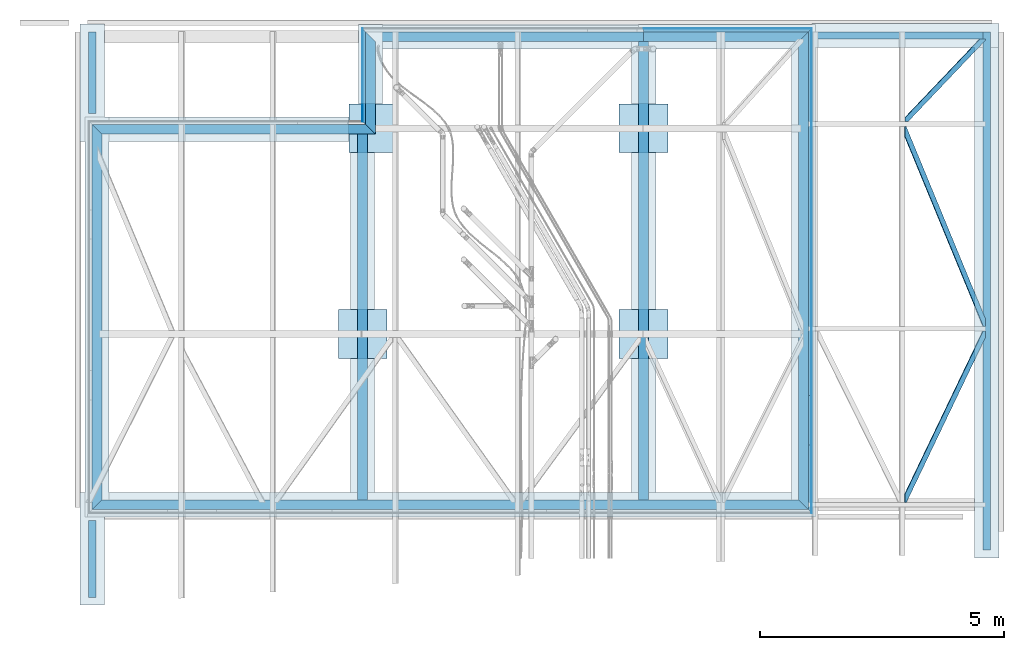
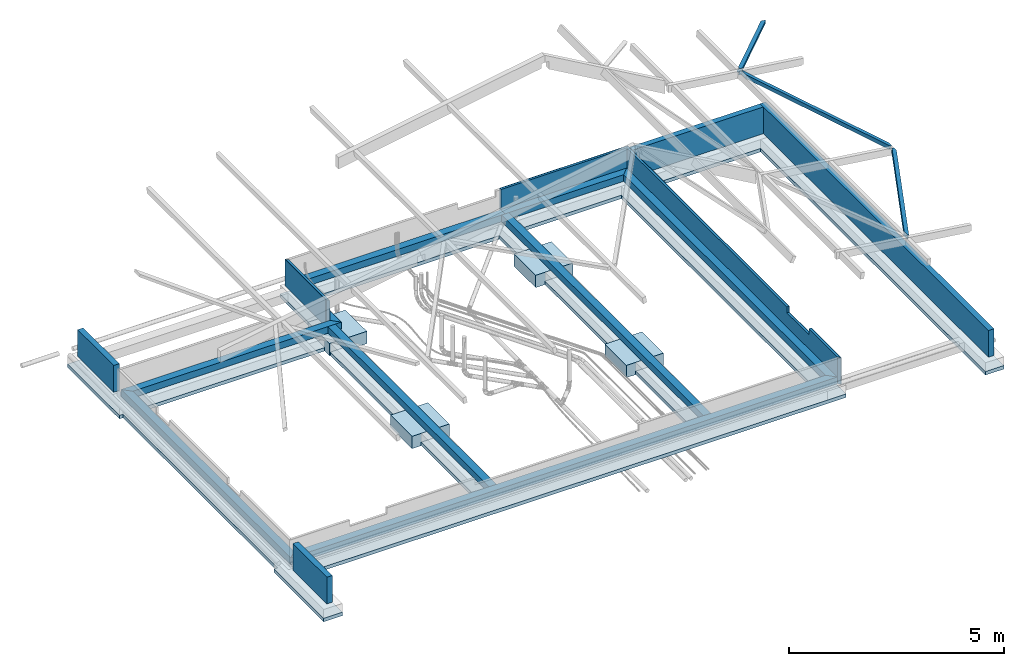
# One storey, part 3 of 18: 13 building element parts, 6 walls, 5 slabs, 2 beams, 1 member, 7 elements without a shape of their own.
"""IFC4 building model written with IfcOpenShell, lengths in centimetres."""

from ifc_helpers import new_model, entity, si_unit, converted_unit, derived_unit, direction, frame, origin, place, context, subcontext, project, spatial, indexed_curve, outline, extrude, polygons, source, transform, mapped, material, type_object, type_shapes, element, aggregate, save


model = new_model("IFC4")

# Units and contexts
model_context = context("Model", 3, precision=0.001, world=origin(), true_north=direction((6.123233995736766e-17, 1.0)))
body_context = subcontext(model_context, "Body", "Model", "MODEL_VIEW")
ifc_project = project(units=[si_unit("LENGTHUNIT", "METRE", prefix="CENTI"), si_unit("AREAUNIT", "SQUARE_METRE"), converted_unit("PLANEANGLEUNIT", "DEGREE", entity("IfcPlaneAngleMeasure", 0.017453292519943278), si_unit("PLANEANGLEUNIT", "RADIAN"), dimensions=[0, 0, 0, 0, 0, 0, 0]), si_unit("VOLUMEUNIT", "CUBIC_METRE"), derived_unit("THERMALTRANSMITTANCEUNIT", [(si_unit("MASSUNIT", "GRAM", prefix="KILO"), 1), (si_unit("THERMODYNAMICTEMPERATUREUNIT", "KELVIN"), -1), (si_unit("TIMEUNIT", "SECOND"), -3)])], contexts=[model_context])

# Site, building, storey
site_placement = place(None, frame((-0.003347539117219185, 0.0, 0.0)))
site = spatial("IfcSite", under=ifc_project, at=site_placement, Name="Default", CompositionType="ELEMENT")
building_placement = place(site_placement, origin())
building = spatial("IfcBuilding", under=site, at=building_placement, CompositionType="ELEMENT")
storey_placement = place(building_placement, frame((0.0, 0.0, -30.0)))
storey = spatial("IfcBuildingStorey", under=building, at=storey_placement, Name="Fondation B.O.", CompositionType="ELEMENT", Elevation=-30.0)

# Member
ifc_material_1 = material(Name="BM - C24", Category="Bois")
member_type = type_object("IfcMemberType", Name="Poutre - Lamellé-collé:10x10", PredefinedType="BRACE", material=ifc_material_1)
shared_shape_1 = source(origin(), body_context, "Body", "Tessellation", [
    polygons([(173.3315507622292, 167.71325035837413, -33.15851174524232), (172.00321374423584, 168.99999999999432, -32.98035495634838), (173.332512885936, 168.99999999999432, -23.069100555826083), (173.86048539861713, 168.48855717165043, -23.139912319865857), (173.86048539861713, 167.71325035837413, -29.214775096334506), (162.1454756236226, 168.99999999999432, -21.56869319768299), (8.396957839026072, 7.427326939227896, -0.9479155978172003), (8.396957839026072, 0.047673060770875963, -0.9479155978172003), (1.3746636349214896, 0.047673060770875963, -0.006084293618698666), (1.3292991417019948, 1.3642420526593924e-12, -1.7053025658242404e-13), (15.06911222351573, 6.821210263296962e-13, -1.842786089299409), (173.86048539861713, 166.87215585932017, -23.1399123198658), (13.739813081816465, 1.1368683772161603e-12, -11.754040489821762), (9.094947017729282e-13, 1.3642420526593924e-12, -9.911254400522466), (0.04536449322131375, 0.047673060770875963, -9.917338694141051), (7.067658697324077, 0.047673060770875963, -10.85916999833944), (7.067658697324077, 7.427326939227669, -10.859169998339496), (160.8161764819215, 168.99999999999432, -31.4799475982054)], [[[1, 2, 3, 4, 5]], [[3, 6, 7, 8, 9, 10, 11, 12, 4]], [[13, 1, 5, 12, 11]], [[2, 1, 13, 14, 15, 16, 17, 18]], [[6, 18, 17, 7]], [[3, 2, 18, 6]], [[14, 10, 9, 15]], [[5, 4, 12]], [[11, 10, 14, 13]], [[8, 16, 15, 9]], [[16, 8, 7, 17]]], closed=True),
])
type_shapes(member_type, [shared_shape_1])
member_placement = place(storey_placement, frame((-5129.947137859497, -1876.8758849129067, 344.48111403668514)))
element("IfcMember", 1, at=member_placement, inside=storey, type_object=member_type, material=ifc_material_1, Name="Poutre - Lamellé-collé:10x10", ObjectType="Poutre - Lamellé-collé:10x10", PredefinedType="BRACE", context=body_context, shape_type="MappedRepresentation", body=[
    mapped(shared_shape_1, transform((0.0, 0.0, 0.0), scale=1.0)),
])

# Beams
beam_type_1 = type_object("IfcBeamType", Name="Poutre - Lamellé-collé:10x10", PredefinedType="BEAM", material=ifc_material_1)
shared_shape_2 = source(origin(), body_context, "Body", "Tessellation", [
    polygons([(1.3292991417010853, 410.0000000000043, -5.684341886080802e-14), (1.3575060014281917, 409.9316038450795, -0.003783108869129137), (9.590416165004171, 409.9316038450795, -1.1079824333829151), (9.590416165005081, 389.9683961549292, -1.1079824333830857), (170.41501018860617, 1.3642420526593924e-12, -22.677804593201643), (175.0539437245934, 1.8189894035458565e-12, -23.29997915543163), (175.0539437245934, 14.781828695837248, -23.299979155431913), (12.064320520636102, 410.00000000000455, -1.4397829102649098), (8.261117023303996, 389.9683961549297, -11.019236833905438), (169.085711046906, 1.3642420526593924e-12, -32.58905899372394), (0.028206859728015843, 409.9316038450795, -9.915037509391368), (9.094947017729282e-13, 410.00000000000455, -9.911254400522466), (10.735021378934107, 410.0000000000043, -11.351037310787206), (175.0539437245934, 11.558536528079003, -33.38951938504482), (175.0539437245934, 1.8189894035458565e-12, -33.38951938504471), (8.261117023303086, 409.9316038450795, -11.019236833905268)], [[[1, 2, 3, 4, 5, 6, 7, 8]], [[5, 4, 9, 10]], [[11, 12, 13, 14, 15, 10, 9, 16]], [[13, 8, 7, 14]], [[12, 11, 2, 1]], [[16, 3, 2, 11]], [[3, 16, 9, 4]], [[1, 8, 13, 12]], [[5, 10, 15, 6]], [[7, 6, 15, 14]]], closed=True),
])
type_shapes(beam_type_1, [shared_shape_2])
beam_1_placement = place(storey_placement, frame((-5131.140596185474, -2296.8758849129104, 344.64118087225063)))
element("IfcBeam", 2, at=beam_1_placement, inside=storey, type_object=beam_type_1, material=ifc_material_1, Name="Poutre - Lamellé-collé:10x10", ObjectType="Poutre - Lamellé-collé:10x10", PredefinedType="BEAM", context=body_context, shape_type="MappedRepresentation", body=[
    mapped(shared_shape_2, transform((0.0, 0.0, 0.0), scale=1.0)),
])
beam_type_2 = type_object("IfcBeamType", Name="Poutre - Lamellé-collé:10x10", PredefinedType="BEAM", material=ifc_material_1)
shared_shape_3 = source(origin(), body_context, "Body", "Tessellation", [
    polygons([(4.273368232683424, 1.3642420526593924e-12, -0.3948590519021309), (166.5359603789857, 338.68643053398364, -22.157545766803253), (166.53596037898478, 351.00000000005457, -22.15754576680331), (161.42686210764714, 351.00000000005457, -21.472312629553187), (1.3292991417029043, 16.83257779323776, -2.2737367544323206e-13), (1.3292991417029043, 1.3642420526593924e-12, -1.1368683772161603e-13), (1.8189894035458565e-12, 16.83257779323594, -9.91125440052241), (160.09756296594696, 351.00000000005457, -31.38356703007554), (166.5359603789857, 341.4610415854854, -32.24708599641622), (2.9440690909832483, 1.3642420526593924e-12, -10.306113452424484), (9.094947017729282e-13, 1.3642420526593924e-12, -9.911254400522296), (166.53596037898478, 351.00000000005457, -32.247085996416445)], [[[1, 2, 3, 4, 5, 6]], [[7, 5, 4, 8]], [[9, 10, 11, 7, 8, 12]], [[2, 1, 10, 9]], [[5, 7, 11, 6]], [[1, 6, 11, 10]], [[2, 9, 12, 3]], [[4, 3, 12, 8]]], closed=True),
])
type_shapes(beam_type_2, [shared_shape_3])
beam_2_placement = place(storey_placement, frame((-5122.622612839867, -2657.8758849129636, 343.49874748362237)))
element("IfcBeam", 3, at=beam_2_placement, inside=storey, type_object=beam_type_2, material=ifc_material_1, Name="Poutre - Lamellé-collé:10x10", ObjectType="Poutre - Lamellé-collé:10x10", PredefinedType="BEAM", context=body_context, shape_type="MappedRepresentation", body=[
    mapped(shared_shape_3, transform((0.0, 0.0, 0.0), scale=1.0)),
])

# Slabs
slab_type_1 = type_object("IfcSlabType", Name="Semelle Isolée + GB:100x100x30 ht.", PredefinedType="BASESLAB")
slab_1_placement = place(storey_placement, origin())
element("IfcSlab", 4, at=slab_1_placement, inside=storey, type_object=slab_type_1, Name="Semelle Isolée + GB:100x100x30 ht.", ObjectType="Semelle Isolée + GB:100x100x30 ht.", PredefinedType="BASESLAB", context=body_context, shape_type="SweptSolid", body=[
    extrude(outline(indexed_curve([(-49.99999999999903, -49.99999999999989), (50.00000000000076, -49.99999999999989), (50.00000000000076, 49.99999999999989), (-49.99999999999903, 49.99999999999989), (-49.99999999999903, -49.99999999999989)], self_intersect=False)), frame((-5657.586652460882, -2312.875884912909, -35.0), z_axis=(0.0, 0.0, 1.0), x_axis=(-1.0, 0.0, 0.0)), (0.0, 0.0, 1.0), 5.0),
    extrude(outline(indexed_curve([(-49.99999999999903, -49.99999999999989), (50.00000000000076, -49.99999999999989), (50.00000000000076, 49.99999999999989), (-49.99999999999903, 49.99999999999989), (-49.99999999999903, -49.99999999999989)], self_intersect=False)), frame((-5657.586652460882, -2312.875884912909, -30.0), z_axis=(0.0, 0.0, 1.0), x_axis=(-1.0, 0.0, 0.0)), (0.0, 0.0, 1.0), 30.0),
])
slab_2_placement = place(storey_placement, origin())
element("IfcSlab", 5, at=slab_2_placement, inside=storey, type_object=slab_type_1, Name="Semelle Isolée + GB:100x100x30 ht.", ObjectType="Semelle Isolée + GB:100x100x30 ht.", PredefinedType="BASESLAB", context=body_context, shape_type="SweptSolid", body=[
    extrude(outline(indexed_curve([(-49.99999999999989, -49.99999999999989), (49.99999999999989, -49.99999999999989), (49.99999999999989, 49.99999999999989), (-49.99999999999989, 49.99999999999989), (-49.99999999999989, -49.99999999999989)], self_intersect=False)), frame((-6233.586652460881, -2312.875884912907, -30.0), z_axis=(0.0, 0.0, 1.0), x_axis=(-1.0, 0.0, 0.0)), (0.0, 0.0, 1.0), 30.0),
    extrude(outline(indexed_curve([(-49.99999999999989, -49.99999999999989), (49.99999999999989, -49.99999999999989), (49.99999999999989, 49.99999999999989), (-49.99999999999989, 49.99999999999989), (-49.99999999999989, -49.99999999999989)], self_intersect=False)), frame((-6233.586652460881, -2312.875884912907, -35.0), z_axis=(0.0, 0.0, 1.0), x_axis=(-1.0, 0.0, 0.0)), (0.0, 0.0, 1.0), 5.0),
])
slab_3_placement = place(storey_placement, origin())
element("IfcSlab", 6, at=slab_3_placement, inside=storey, type_object=slab_type_1, Name="Semelle Isolée + GB:100x100x30 ht.", ObjectType="Semelle Isolée + GB:100x100x30 ht.", PredefinedType="BASESLAB", context=body_context, shape_type="SweptSolid", body=[
    extrude(outline(indexed_curve([(-49.99999999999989, -50.000000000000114), (49.99999999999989, -50.000000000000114), (49.99999999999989, 49.99999999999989), (-49.99999999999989, 49.99999999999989), (-49.99999999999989, -50.000000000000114)], self_intersect=False)), frame((-5657.586652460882, -1890.875884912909, -30.0), z_axis=(0.0, 0.0, 1.0), x_axis=(-1.0, 0.0, 0.0)), (0.0, 0.0, 1.0), 30.0),
    extrude(outline(indexed_curve([(-49.99999999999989, -50.000000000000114), (49.99999999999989, -50.000000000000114), (49.99999999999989, 49.99999999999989), (-49.99999999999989, 49.99999999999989), (-49.99999999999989, -50.000000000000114)], self_intersect=False)), frame((-5657.586652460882, -1890.875884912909, -35.0), z_axis=(0.0, 0.0, 1.0), x_axis=(-1.0, 0.0, 0.0)), (0.0, 0.0, 1.0), 5.0),
])
slab_4_placement = place(storey_placement, origin())
element("IfcSlab", 7, at=slab_4_placement, inside=storey, type_object=slab_type_1, Name="Semelle Isolée + GB:100x100x30 ht.", ObjectType="Semelle Isolée + GB:100x100x30 ht.", PredefinedType="BASESLAB", context=body_context, shape_type="SweptSolid", body=[
    extrude(outline(indexed_curve([(-49.99999999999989, -50.000000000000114), (49.99999999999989, -50.000000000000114), (49.99999999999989, 49.99999999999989), (-49.99999999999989, 49.99999999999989), (-49.99999999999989, -50.000000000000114)], self_intersect=False)), frame((-6211.586652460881, -1890.875884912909, -35.0), z_axis=(0.0, 0.0, 1.0), x_axis=(-1.0, 0.0, 0.0)), (0.0, 0.0, 1.0), 5.0),
    extrude(outline(indexed_curve([(-49.99999999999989, -50.000000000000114), (49.99999999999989, -50.000000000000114), (49.99999999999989, 49.99999999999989), (-49.99999999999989, 49.99999999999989), (-49.99999999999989, -50.000000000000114)], self_intersect=False)), frame((-6211.586652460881, -1890.875884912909, -30.0), z_axis=(0.0, 0.0, 1.0), x_axis=(-1.0, 0.0, 0.0)), (0.0, 0.0, 1.0), 30.0),
])
slab_type_2 = type_object("IfcSlabType", Name="Gros béton:Gros béton", PredefinedType="BASESLAB")
slab_5_placement = place(storey_placement, origin())
element("IfcSlab", 8, at=slab_5_placement, inside=storey, type_object=slab_type_2, Name="Gros béton:Gros béton", ObjectType="Gros béton:Gros béton", PredefinedType="BASESLAB", context=body_context, shape_type="SweptSolid", body=[
    extrude(outline(indexed_curve([(-24.999999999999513, -160.99999999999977), (24.999999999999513, -160.99999999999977), (24.999999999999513, 161.0000000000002), (-24.999999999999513, 161.0000000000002), (-24.999999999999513, -160.99999999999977)], self_intersect=False)), frame((-5657.586652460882, -2101.875884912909, -35.0), z_axis=(0.0, 0.0, 1.0), x_axis=(-1.0, 0.0, 0.0)), (0.0, 0.0, 1.0), 10.0),
    extrude(outline(indexed_curve([(242.25000000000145, 242.39999999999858), (292.25000000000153, 242.39999999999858), (292.25000000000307, 743.8999999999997), (483.2500000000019, 743.8999999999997), (483.2500000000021, 793.8999999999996), (242.25000000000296, 793.8999999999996), (242.25000000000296, 784.400000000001), (-477.7499999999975, 784.4000000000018), (-477.7499999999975, 793.9000000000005), (-708.7499999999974, 793.9000000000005), (-708.7499999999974, 743.9000000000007), (-527.7499999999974, 743.9000000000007), (-527.7500000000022, -714.5999999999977), (434.7499999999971, -714.5999999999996), (434.749999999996, -1040.6), (-611.7500000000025, -1040.599999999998), (-611.7500000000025, -1090.599999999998), (484.7499999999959, -1090.6), (484.7499999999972, -706.5999999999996), (482.2499999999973, -706.5999999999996), (482.2500000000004, 223.39999999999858), (319.24999999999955, 223.39999999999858), (319.2499999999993, 173.3999999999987), (432.25000000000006, 173.3999999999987), (432.2499999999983, -336.6000000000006), (319.24999999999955, -336.6000000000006), (319.2499999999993, -386.6000000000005), (432.2499999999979, -386.6000000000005), (432.24999999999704, -664.6000000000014), (-477.7500000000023, -664.5999999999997), (-477.7500000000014, -386.5999999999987), (-202.7500000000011, -386.5999999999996), (-202.7500000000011, -336.5999999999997), (-477.75000000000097, -336.59999999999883), (-477.7499999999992, 189.90000000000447), (-202.74999999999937, 189.90000000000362), (-202.74999999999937, 239.90000000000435), (-477.7499999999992, 239.90000000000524), (-477.7499999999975, 734.4000000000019), (242.25000000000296, 734.4000000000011), (242.25000000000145, 242.39999999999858)], self_intersect=False)), frame((-6019.186652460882, -2160.125884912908, -35.0), z_axis=(0.0, 0.0, 1.0), x_axis=(0.0, 1.0, 0.0)), (0.0, 0.0, 1.0), 10.0),
    extrude(outline(indexed_curve([(-24.999999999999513, -160.99999999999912), (25.00000000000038, -160.99999999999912), (25.00000000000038, 160.99999999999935), (-24.999999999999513, 160.99999999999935), (-24.999999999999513, -160.99999999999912)], self_intersect=False)), frame((-6234.0866524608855, -2101.875884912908, -35.0), z_axis=(0.0, 0.0, 1.0), x_axis=(-1.0, 0.0, 0.0)), (0.0, 0.0, 1.0), 10.0),
])

# Walls
ifc_material_2 = material(Name="Béton C20/25")
wall_type_1 = type_object("IfcWallType", Name="Mur de base:Soubassement 20 cm", PredefinedType="STANDARD")
wall_1_placement = place(storey_placement, frame((-6234.0866524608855, -1902.875884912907, 0.0), z_axis=(0.0, 0.0, 1.0), x_axis=(0.0, -1.0, 0.0)))
element("IfcWall", 9, at=wall_1_placement, inside=storey, type_object=wall_type_1, material=ifc_material_2, Name="Mur de base:Soubassement 20 cm", ObjectType="Mur de base:Soubassement 20 cm", PredefinedType="NOTDEFINED", context=body_context, shape_type="Tessellation", body=[
    polygons([(-2.1657342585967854e-13, -9.999999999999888, 0.0), (750.000000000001, -10.000000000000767, 0.0), (750.000000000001, -10.000000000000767, 19.000000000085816), (-2.1657342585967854e-13, -9.999999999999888, 19.000000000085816), (750.000000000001, 9.999999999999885, 0.0), (-2.1657342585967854e-13, 9.999999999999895, 0.0), (-2.1657342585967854e-13, 9.999999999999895, 19.000000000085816), (750.000000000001, 9.999999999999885, 19.000000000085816)], [[[1, 2, 3, 4]], [[5, 6, 7, 8]], [[2, 1, 6, 5]], [[2, 5, 8, 3]], [[6, 1, 4, 7]], [[4, 3, 8, 7]]], closed=True),
])
wall_2_placement = place(storey_placement, frame((-5657.586652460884, -2652.8758849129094, 0.0), z_axis=(0.0, 0.0, 1.0), x_axis=(0.0, 1.0, 0.0)))
element("IfcWall", 10, at=wall_2_placement, inside=storey, type_object=wall_type_1, material=ifc_material_2, Name="Mur de base:Soubassement 20 cm", ObjectType="Mur de base:Soubassement 20 cm", PredefinedType="NOTDEFINED", context=body_context, shape_type="Tessellation", body=[
    polygons([(0.0, -10.000000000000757, 0.0), (939.9999999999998, -9.999999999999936, 0.0), (939.9999999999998, -9.999999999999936, 19.000000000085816), (0.0, -10.000000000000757, 19.000000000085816), (8.662937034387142e-13, 9.999999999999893, 0.0), (8.662937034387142e-13, 9.999999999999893, 19.000000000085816), (939.9999999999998, 9.999999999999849, 19.000000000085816), (939.9999999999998, 9.999999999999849, 0.0), (939.9999999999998, -4.764631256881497e-13, 0.0), (939.9999999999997, -4.764631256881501e-13, 19.000000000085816)], [[[1, 2, 3, 4]], [[5, 6, 7, 8]], [[2, 1, 5, 8, 9]], [[1, 4, 6, 5]], [[3, 2, 9, 8, 7, 10]], [[4, 3, 10, 7, 6]]], closed=True),
])
wall_type_2 = type_object("IfcWallType", Name="Mur de base:Soubassement 15 cm", PredefinedType="STANDARD")
wall_3_placement = place(storey_placement, frame((-4953.586652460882, -1692.8758849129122, 0.0), z_axis=(0.0, 0.0, 1.0), x_axis=(0.0, -1.0, 0.0)))
element("IfcWall", 11, at=wall_3_placement, inside=storey, type_object=wall_type_2, material=ifc_material_2, Name="Mur de base:Soubassement 15 cm", ObjectType="Mur de base:Soubassement 15 cm", PredefinedType="NOTDEFINED", context=body_context, shape_type="SweptSolid", body=[
    extrude(outline(indexed_curve([(1062.9999999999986, 7.5000000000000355), (-1.2282046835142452e-14, 7.5000000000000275), (1.2282046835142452e-14, -7.5000000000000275), (1062.9999999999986, -7.500000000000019), (1062.9999999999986, 7.5000000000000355)], self_intersect=False)), origin(), (0.0, 0.0, 1.0), 76.0000000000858),
])
wall_4_placement = place(storey_placement, frame((-6788.086652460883, -2852.875884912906, 0.0), z_axis=(0.0, 0.0, 1.0), x_axis=(0.0, 1.0, 0.0)))
element("IfcWall", 12, at=wall_4_placement, inside=storey, type_object=wall_type_2, material=ifc_material_2, Name="Mur de base:Soubassement 15 cm", ObjectType="Mur de base:Soubassement 15 cm", PredefinedType="NOTDEFINED", context=body_context, shape_type="SweptSolid", body=[
    extrude(outline(indexed_curve([(157.99999999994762, 7.5000000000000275), (0.0, 7.5000000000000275), (0.0, -7.5000000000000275), (157.99999999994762, -7.5000000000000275), (157.99999999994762, 7.5000000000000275)], self_intersect=False)), origin(), (0.0, 0.0, 1.0), 76.0000000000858),
])
wall_5_placement = place(storey_placement, frame((-6788.086652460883, -1860.8758849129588, 0.0), z_axis=(0.0, 0.0, 1.0), x_axis=(0.0, 1.0, 0.0)))
element("IfcWall", 13, at=wall_5_placement, inside=storey, type_object=wall_type_2, material=ifc_material_2, Name="Mur de base:Soubassement 15 cm", ObjectType="Mur de base:Soubassement 15 cm", PredefinedType="NOTDEFINED", context=body_context, shape_type="SweptSolid", body=[
    extrude(outline(indexed_curve([(168.00000000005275, 7.5000000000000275), (0.0, 7.5000000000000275), (0.0, -7.5000000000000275), (168.00000000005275, -7.5000000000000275), (168.00000000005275, 7.5000000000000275)], self_intersect=False)), origin(), (0.0, 0.0, 1.0), 76.0000000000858),
])
wall_6_placement = place(storey_placement, frame((-5312.586652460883, -1700.375884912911, 0.0)))
element("IfcWall", 14, at=wall_6_placement, inside=storey, type_object=wall_type_2, material=ifc_material_2, Name="Mur de base:Soubassement 15 cm", ObjectType="Mur de base:Soubassement 15 cm", PredefinedType="NOTDEFINED", context=body_context, shape_type="SweptSolid", body=[
    extrude(outline(indexed_curve([(351.5000000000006, 7.50000000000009), (-2.4432850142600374e-14, 7.5000000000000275), (2.4432850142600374e-14, -7.5000000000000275), (351.5000000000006, -7.4999999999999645), (351.5000000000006, 7.50000000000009)], self_intersect=False)), origin(), (0.0, 0.0, 1.0), 76.0000000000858),
])

# Wall, building element part
wall_type_3 = type_object("IfcWallType", Name="Mur de base:Soubassement 20 cm + Isolant", PredefinedType="STANDARD")
wall_7_placement = place(storey_placement, frame((-6782.086652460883, -1875.875884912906, 30.0), z_axis=(0.0, 0.0, 1.0), x_axis=(0.0, -1.0, 0.0)))
wall_7 = element("IfcWall", 15, at=wall_7_placement, inside=storey, type_object=wall_type_3, Name="Mur de base:Soubassement 20 cm + Isolant", ObjectType="Mur de base:Soubassement 20 cm + Isolant", PredefinedType="NOTDEFINED")
building_element_part_1_placement = place(wall_7_placement, origin())
building_element_part_1 = element("IfcBuildingElementPart", 16, at=building_element_part_1_placement, material=ifc_material_2, Name="Béton C20/25", context=body_context, shape_type="SweptSolid", body=[
    extrude(outline(indexed_curve([(-395.00000000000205, -10.000000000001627), (395.00000000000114, -10.000000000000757), (375.00000000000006, 10.000000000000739), (-375.0000000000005, 10.000000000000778), (-395.00000000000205, -10.000000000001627)], self_intersect=False)), frame((402.0, 3.499999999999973, -30.0)), (0.0, 0.0, 1.0), 19.00000000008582),
])
aggregate(wall_7, [building_element_part_1])

wall_8_placement = place(storey_placement, frame((-6795.586652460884, -2666.375884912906, 30.0)))
wall_8 = element("IfcWall", 17, at=wall_8_placement, inside=storey, type_object=wall_type_3, Name="Mur de base:Soubassement 20 cm + Isolant", ObjectType="Mur de base:Soubassement 20 cm + Isolant", PredefinedType="NOTDEFINED")
building_element_part_2_placement = place(wall_8_placement, origin())
building_element_part_2 = element("IfcBuildingElementPart", 18, at=building_element_part_2_placement, material=ifc_material_2, Name="Béton C20/25", context=body_context, shape_type="SweptSolid", body=[
    extrude(outline(indexed_curve([(-734.500000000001, -10.000000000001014), (734.500000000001, -10.00000000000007), (714.5000000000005, 9.999999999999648), (-714.4999999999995, 9.999999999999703), (-734.500000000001, -10.000000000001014)], self_intersect=False)), frame((741.5000000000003, 3.5000000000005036, -30.0)), (0.0, 0.0, 1.0), 19.00000000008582),
])
aggregate(wall_8, [building_element_part_2])

# Wall, building element parts
wall_9_placement = place(storey_placement, frame((-5326.086652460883, -2679.8758849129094, 30.0), z_axis=(0.0, 0.0, 1.0), x_axis=(0.0, 1.0, 0.0)))
wall_9 = element("IfcWall", 19, at=wall_9_placement, inside=storey, type_object=wall_type_3, Name="Mur de base:Soubassement 20 cm + Isolant", ObjectType="Mur de base:Soubassement 20 cm + Isolant", PredefinedType="NOTDEFINED")
ifc_material_3 = material(Name="Isolant rigide", Category="Générique")
building_element_part_3_placement = place(wall_9_placement, origin())
building_element_part_3 = element("IfcBuildingElementPart", 20, at=building_element_part_3_placement, material=ifc_material_3, Name="Isolant rigide", context=body_context, shape_type="Tessellation", body=[
    polygons([(1.0, -12.500000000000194, -30.0), (992.9999999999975, -12.499999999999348, -30.0), (992.999999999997, -12.499999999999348, 29.000000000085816), (992.9999999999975, -12.499999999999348, 46.000000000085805), (241.49999999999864, -12.499999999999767, 46.00000000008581), (241.49999999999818, -12.499999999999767, 29.000000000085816), (139.49999999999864, -12.499999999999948, 29.00000000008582), (139.49999999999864, -12.499999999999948, 46.00000000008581), (1.0, -12.500000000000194, 46.000000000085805), (1.0000000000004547, -12.500000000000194, 29.000000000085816), (6.9999999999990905, -6.5000000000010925, -30.0), (986.9999999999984, -6.500000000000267, -30.0), (986.9999999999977, -6.500000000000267, -10.999999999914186), (986.9999999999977, -6.500000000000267, 29.000000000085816), (986.999999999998, -6.500000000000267, 46.000000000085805), (6.9999999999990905, -6.5000000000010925, 46.000000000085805), (6.999999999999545, -6.500000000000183, 29.000000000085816), (6.999999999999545, -6.500000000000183, -10.999999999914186), (241.49999999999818, -6.500000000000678, 29.000000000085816), (139.49999999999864, -6.500000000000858, 29.000000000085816), (139.49999999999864, -6.500000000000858, 46.00000000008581), (241.49999999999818, -6.500000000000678, 46.00000000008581)], [[[1, 2, 3, 4, 5, 6, 7, 8, 9, 10]], [[2, 1, 11, 12]], [[3, 2, 12, 13, 14, 15, 4]], [[1, 10, 9, 16, 17, 18, 11]], [[7, 6, 19, 20]], [[12, 11, 18, 17, 16, 21, 20, 19, 22, 15, 14, 13]], [[5, 4, 15, 22]], [[8, 7, 20, 21]], [[6, 5, 22, 19]], [[9, 8, 21, 16]]], closed=True),
])
ifc_material_4 = material(Name="Béton, règle sable/ciment", Category="Béton")
building_element_part_4_placement = place(wall_9_placement, origin())
building_element_part_4 = element("IfcBuildingElementPart", 21, at=building_element_part_4_placement, material=ifc_material_4, Name="Béton, règle sable/ciment", context=body_context, shape_type="Tessellation", body=[
    polygons([(992.9999999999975, -12.499999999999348, -30.0), (1.0, -12.500000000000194, -30.0), (1.0000000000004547, -12.500000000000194, 29.000000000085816), (1.0, -12.500000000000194, 46.000000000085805), (139.49999999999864, -12.499999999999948, 46.00000000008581), (139.49999999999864, -12.499999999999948, 29.00000000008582), (241.49999999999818, -12.499999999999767, 29.000000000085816), (241.49999999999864, -12.499999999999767, 46.00000000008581), (992.9999999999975, -12.499999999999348, 46.000000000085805), (992.999999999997, -12.499999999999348, 29.000000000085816), (993.9999999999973, -13.499999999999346, -30.0), (0.0, -13.499999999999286, -30.0), (993.9999999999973, -13.499999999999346, 46.000000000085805), (993.9999999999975, -13.499999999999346, 29.000000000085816), (0.0, -13.499999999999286, 29.000000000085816), (0.0, -13.499999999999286, 46.000000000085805), (139.49999999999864, -13.499999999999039, 29.00000000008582), (241.49999999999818, -13.499999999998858, 29.00000000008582), (241.49999999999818, -13.499999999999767, 46.000000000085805), (139.49999999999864, -13.499999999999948, 46.000000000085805)], [[[1, 2, 3, 4, 5, 6, 7, 8, 9, 10]], [[2, 1, 11, 12]], [[1, 10, 9, 13, 14, 11]], [[3, 2, 12, 15, 16, 4]], [[7, 6, 17, 18]], [[12, 11, 14, 13, 19, 18, 17, 20, 16, 15]], [[5, 4, 16, 20]], [[6, 5, 20, 17]], [[8, 7, 18, 19]], [[9, 8, 19, 13]]], closed=True),
])
building_element_part_5_placement = place(wall_9_placement, origin())
building_element_part_5 = element("IfcBuildingElementPart", 22, at=building_element_part_5_placement, material=ifc_material_2, Name="Béton C20/25", context=body_context, shape_type="SweptSolid", body=[
    extrude(outline(indexed_curve([(-469.99999999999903, -10.000000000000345), (469.99999999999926, -10.000000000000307), (489.9999999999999, 10.000000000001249), (-489.9999999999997, 10.000000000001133), (-469.99999999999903, -10.000000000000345)], self_intersect=False)), frame((497.0, 3.5000000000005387, -30.0), z_axis=(0.0, 0.0, 1.0), x_axis=(-1.0, 0.0, 0.0)), (0.0, 0.0, 1.0), 19.00000000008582),
])
aggregate(wall_9, [building_element_part_3, building_element_part_4, building_element_part_5])

wall_10_placement = place(storey_placement, frame((-5312.586652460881, -1699.375884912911, 30.0), z_axis=(0.0, 0.0, 1.0), x_axis=(-1.0, 0.0, 0.0)))
wall_10 = element("IfcWall", 23, at=wall_10_placement, inside=storey, type_object=wall_type_3, Name="Mur de base:Soubassement 20 cm + Isolant", ObjectType="Mur de base:Soubassement 20 cm + Isolant", PredefinedType="NOTDEFINED")
building_element_part_6_placement = place(wall_10_placement, origin())
building_element_part_6 = element("IfcBuildingElementPart", 24, at=building_element_part_6_placement, material=ifc_material_3, Name="Isolant rigide", context=body_context, shape_type="SweptSolid", body=[
    extrude(outline(indexed_curve([(-3.0000000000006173, -170.50000000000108), (2.999999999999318, -170.50000000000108), (3.0000000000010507, 167.49999999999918), (-2.9999999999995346, 173.5000000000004), (-3.0000000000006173, -170.50000000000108)], self_intersect=False)), frame((174.50000000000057, -9.499999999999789, -30.0), z_axis=(0.0, 0.0, 1.0), x_axis=(0.0, 1.0, 0.0)), (0.0, 0.0, 1.0), 76.0000000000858),
])
building_element_part_7_placement = place(wall_10_placement, origin())
building_element_part_7 = element("IfcBuildingElementPart", 25, at=building_element_part_7_placement, material=ifc_material_4, Name="Béton, règle sable/ciment", context=body_context, shape_type="SweptSolid", body=[
    extrude(outline(indexed_curve([(-0.500000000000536, -172.24999999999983), (0.49999999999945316, -172.24999999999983), (0.500000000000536, 171.75000000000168), (-0.49999999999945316, 172.75000000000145), (-0.500000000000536, -172.24999999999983)], self_intersect=False)), frame((172.75000000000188, -13.0, -30.0), z_axis=(0.0, 0.0, 1.0), x_axis=(0.0, 1.0, 0.0)), (0.0, 0.0, 1.0), 76.0000000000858),
])
building_element_part_8_placement = place(wall_10_placement, origin())
building_element_part_8 = element("IfcBuildingElementPart", 26, at=building_element_part_8_placement, material=ifc_material_2, Name="Béton C20/25", context=body_context, shape_type="SweptSolid", body=[
    extrude(outline(indexed_curve([(-10.000000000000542, -163.99999999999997), (9.999999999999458, -163.99999999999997), (10.000000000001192, 153.99999999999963), (-9.999999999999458, 174.00000000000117), (-10.000000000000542, -163.99999999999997)], self_intersect=False)), frame((181.0, 3.5000000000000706, -30.0), z_axis=(0.0, 0.0, 1.0), x_axis=(0.0, 1.0, 0.0)), (0.0, 0.0, 1.0), 19.00000000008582),
])
aggregate(wall_10, [building_element_part_6, building_element_part_7, building_element_part_8])

wall_11_placement = place(storey_placement, frame((-6221.08665246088, -1685.8758849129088, 30.0), z_axis=(0.0, 0.0, 1.0), x_axis=(0.0, -1.0, 0.0)))
wall_11 = element("IfcWall", 27, at=wall_11_placement, inside=storey, type_object=wall_type_3, Name="Mur de base:Soubassement 20 cm + Isolant", ObjectType="Mur de base:Soubassement 20 cm + Isolant", PredefinedType="NOTDEFINED")
building_element_part_9_placement = place(wall_11_placement, origin())
building_element_part_9 = element("IfcBuildingElementPart", 28, at=building_element_part_9_placement, material=ifc_material_3, Name="Isolant rigide", context=body_context, shape_type="SweptSolid", body=[
    extrude(outline(indexed_curve([(-97.99999999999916, -3.0000000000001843), (91.99999999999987, -3.0000000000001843), (97.99999999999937, 2.999999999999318), (-91.99999999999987, 2.999999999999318), (-97.99999999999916, -3.0000000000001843)], self_intersect=False)), frame((99.0, -9.499999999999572, -30.0)), (0.0, 0.0, 1.0), 76.0000000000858),
])
building_element_part_10_placement = place(wall_11_placement, origin())
building_element_part_10 = element("IfcBuildingElementPart", 29, at=building_element_part_10_placement, material=ifc_material_4, Name="Béton, règle sable/ciment", context=body_context, shape_type="SweptSolid", body=[
    extrude(outline(indexed_curve([(-95.49999999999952, -0.4999999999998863), (94.49999999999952, -0.4999999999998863), (95.49999999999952, 0.4999999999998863), (-94.49999999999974, 0.4999999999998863), (-95.49999999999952, -0.4999999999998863)], self_intersect=False)), frame((95.49999999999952, -13.0, -30.0)), (0.0, 0.0, 1.0), 76.0000000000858),
])
building_element_part_11_placement = place(wall_11_placement, origin())
building_element_part_11 = element("IfcBuildingElementPart", 30, at=building_element_part_11_placement, material=ifc_material_2, Name="Béton C20/25", context=body_context, shape_type="SweptSolid", body=[
    extrude(outline(indexed_curve([(-104.99999999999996, -10.000000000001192), (84.99999999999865, -10.000000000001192), (104.99999999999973, 10.000000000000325), (-84.9999999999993, 10.000000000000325), (-104.99999999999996, -10.000000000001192)], self_intersect=False)), frame((112.0, 3.5000000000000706, -30.0)), (0.0, 0.0, 1.0), 19.00000000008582),
])
aggregate(wall_11, [building_element_part_9, building_element_part_10, building_element_part_11])

# Wall, building element part
wall_12_placement = place(storey_placement, frame((-6207.58665246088, -1889.375884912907, 30.0), z_axis=(0.0, 0.0, 1.0), x_axis=(-1.0, 0.0, 0.0)))
wall_12 = element("IfcWall", 31, at=wall_12_placement, inside=storey, type_object=wall_type_3, Name="Mur de base:Soubassement 20 cm + Isolant", ObjectType="Mur de base:Soubassement 20 cm + Isolant", PredefinedType="NOTDEFINED")
building_element_part_12_placement = place(wall_12_placement, origin())
building_element_part_12 = element("IfcBuildingElementPart", 32, at=building_element_part_12_placement, material=ifc_material_2, Name="Béton C20/25", context=body_context, shape_type="SweptSolid", body=[
    extrude(outline(indexed_curve([(-270.5000000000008, -10.000000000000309), (290.5000000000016, -10.000000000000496), (270.5000000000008, 9.999999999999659), (-290.5000000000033, 10.000000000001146), (-270.5000000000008, -10.000000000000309)], self_intersect=False)), frame((290.50000000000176, 3.499999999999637, -30.0), z_axis=(0.0, 0.0, 1.0), x_axis=(-1.0, 0.0, 0.0)), (0.0, 0.0, 1.0), 19.00000000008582),
])
aggregate(wall_12, [building_element_part_12])

wall_13_placement = place(storey_placement, frame((-6234.586652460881, -1699.3758849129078, 30.0)))
wall_13 = element("IfcWall", 33, at=wall_13_placement, inside=storey, type_object=wall_type_3, Name="Mur de base:Soubassement 20 cm + Isolant", ObjectType="Mur de base:Soubassement 20 cm + Isolant", PredefinedType="NOTDEFINED")
building_element_part_13_placement = place(wall_13_placement, origin())
building_element_part_13 = element("IfcBuildingElementPart", 34, at=building_element_part_13_placement, material=ifc_material_2, Name="Béton C20/25", context=body_context, shape_type="SweptSolid", body=[
    extrude(outline(indexed_curve([(-269.99999999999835, -10.000000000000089), (279.99999999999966, -10.000000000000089), (279.99999999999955, 9.999999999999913), (-289.99999999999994, 10.000000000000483), (-269.99999999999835, -10.000000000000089)], self_intersect=False)), frame((297.0, -3.499999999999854, -30.0)), (0.0, 0.0, 1.0), 19.00000000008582),
])
aggregate(wall_13, [building_element_part_13])

save(model, "model.ifc")
